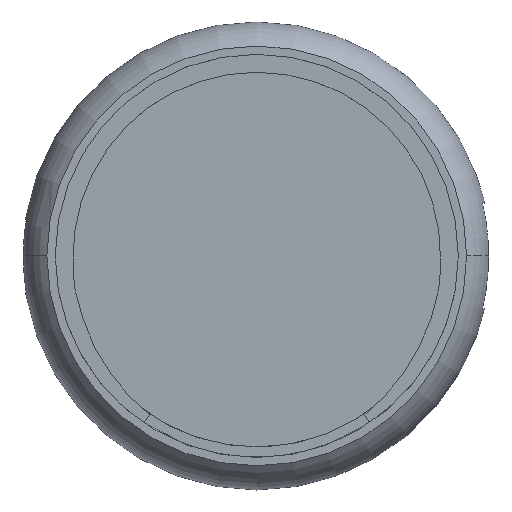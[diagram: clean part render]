
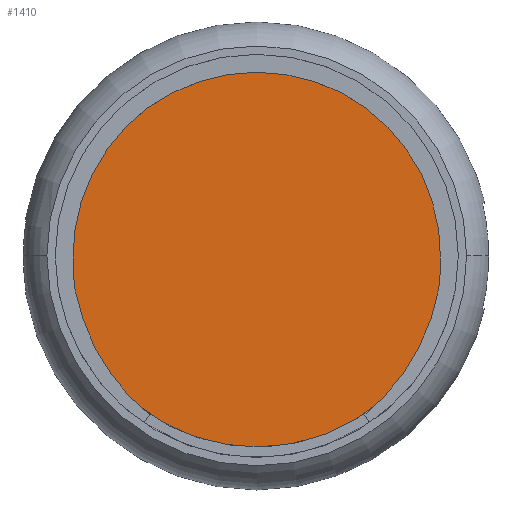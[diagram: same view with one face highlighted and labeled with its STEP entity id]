
A CAD part, top view. The second image highlights one B-rep face of the part: STEP entity #1410.
In plain terms, the highlighted planar face has unit normal (0, 0, 1).
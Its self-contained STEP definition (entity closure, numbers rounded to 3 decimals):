
#38 = VERTEX_POINT ( 'NONE', #957 ) ;
#72 = CARTESIAN_POINT ( 'NONE',  ( 0., 0., 1.5 ) ) ;
#358 = EDGE_LOOP ( 'NONE', ( #1792, #507 ) ) ;
#507 = ORIENTED_EDGE ( 'NONE', *, *, #2789, .T. ) ;
#900 = VERTEX_POINT ( 'NONE', #1398 ) ;
#957 = CARTESIAN_POINT ( 'NONE',  ( 25.3, 0., 1.5 ) ) ;
#1113 = CARTESIAN_POINT ( 'NONE',  ( 0., 0., 1.5 ) ) ;
#1213 = EDGE_CURVE ( 'NONE', #900, #38, #2367, .T. ) ;
#1255 = CIRCLE ( 'NONE', #2222, 25.3 ) ;
#1398 = CARTESIAN_POINT ( 'NONE',  ( -25.3, 0., 1.5 ) ) ;
#1410 = ADVANCED_FACE ( 'NONE', ( #1637 ), #1924, .T. ) ;
#1453 = DIRECTION ( 'NONE',  ( 1., 0., 0. ) ) ;
#1637 = FACE_OUTER_BOUND ( 'NONE', #358, .T. ) ;
#1681 = DIRECTION ( 'NONE',  ( 0., 0., 1. ) ) ;
#1692 = AXIS2_PLACEMENT_3D ( 'NONE', #72, #1983, #2903 ) ;
#1792 = ORIENTED_EDGE ( 'NONE', *, *, #1213, .T. ) ;
#1924 = PLANE ( 'NONE',  #2323 ) ;
#1983 = DIRECTION ( 'NONE',  ( 0., 0., 1. ) ) ;
#2063 = DIRECTION ( 'NONE',  ( 0., 0., 1. ) ) ;
#2163 = CARTESIAN_POINT ( 'NONE',  ( 0., 0., 1.5 ) ) ;
#2222 = AXIS2_PLACEMENT_3D ( 'NONE', #1113, #2063, #2978 ) ;
#2323 = AXIS2_PLACEMENT_3D ( 'NONE', #2163, #1681, #1453 ) ;
#2367 = CIRCLE ( 'NONE', #1692, 25.3 ) ;
#2789 = EDGE_CURVE ( 'NONE', #38, #900, #1255, .T. ) ;
#2903 = DIRECTION ( 'NONE',  ( 1., 0., 0. ) ) ;
#2978 = DIRECTION ( 'NONE',  ( 1., 0., 0. ) ) ;
